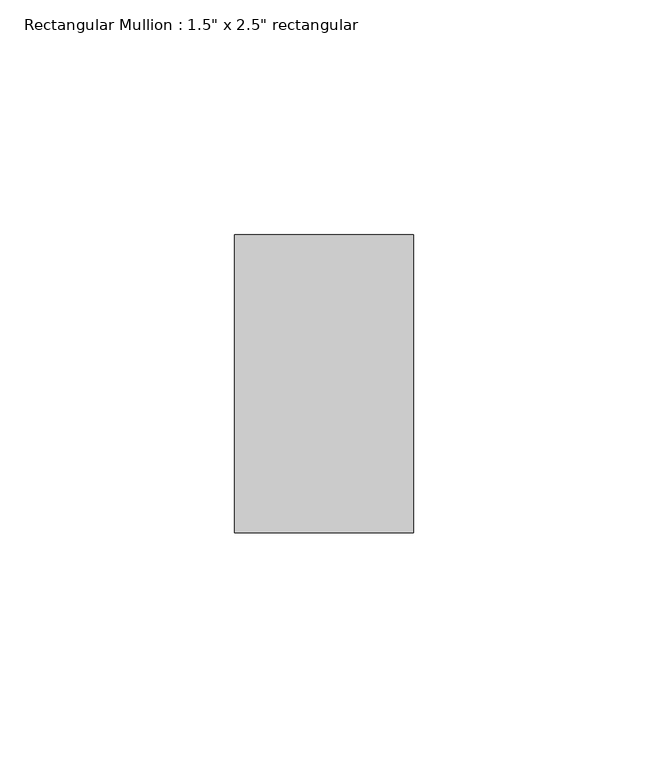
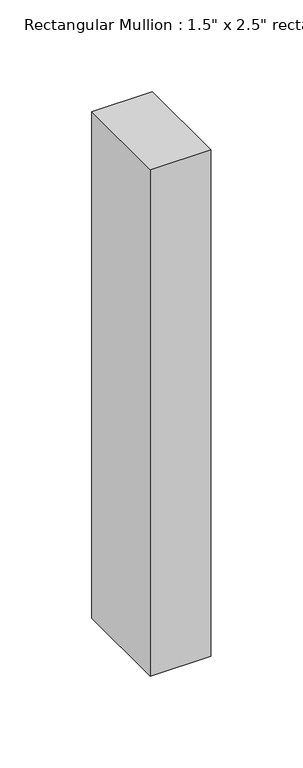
"""IFC4 building model written with IfcOpenShell, lengths in millimetres: member geometry."""

from ifc_helpers import new_model, si_unit, frame, origin, place, context, project, spatial, polyline, outline, extrude, source, transform, mapped, element, save


def member_b31159f8(model_context):
    return source(origin(), model_context, "Body", "SweptSolid", [
        extrude(outline(polyline([(0.0, 31.75), (0.0, -31.75), (-38.1, -31.75), (-38.1, 31.75), (0.0, 31.75)])), frame((0.0, 0.0, -336.55), z_axis=(0.0, 0.0, 1.0), x_axis=(1.0, 0.0, 0.0)), (0.0, 0.0, 1.0), 336.55),
    ])


if __name__ == "__main__":
    model = new_model("IFC4")
    model_context = context("Model", 3, world=origin())
    ifc_project = project(units=[si_unit("LENGTHUNIT", "METRE", prefix="MILLI")], contexts=[model_context])
    site = spatial("IfcSite", under=ifc_project)
    building = spatial("IfcBuilding", under=site)
    placement = place(None, origin())
    member_shape = member_b31159f8(model_context)
    element("IfcMember", 1, ObjectType="Rectangular Mullion : 1.5\" x 2.5\" rectangular", at=placement, inside=building, context=model_context, shape_type="MappedRepresentation", body=[
        mapped(member_shape, transform((0.0, 0.0, 0.0), x_axis=(1.0, 0.0, 0.0), y_axis=(0.0, 1.0, 0.0), z_axis=(0.0, 0.0, 1.0))),
    ])
    save(model, "model.ifc")
